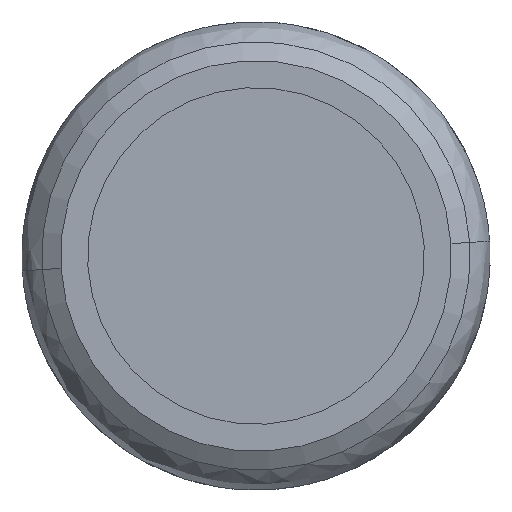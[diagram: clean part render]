
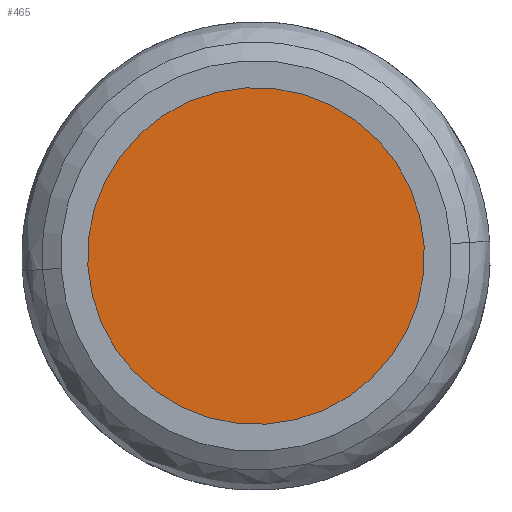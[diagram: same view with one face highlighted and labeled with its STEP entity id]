
A CAD part, left-side view. The second image highlights one B-rep face of the part: STEP entity #465.
In plain terms, the highlighted free-form (B-spline) face has degree [1, 1] with [2, 2] control points.
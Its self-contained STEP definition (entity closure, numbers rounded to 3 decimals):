
#465=ADVANCED_FACE('',(#1185),#1186,.T.);
#973=VERTEX_POINT('',#1696);
#977=VERTEX_POINT('',#1700);
#981=EDGE_CURVE('',#973,#977,#1704,.T.);
#983=EDGE_CURVE('',#977,#973,#1706,.T.);
#1185=FACE_OUTER_BOUND('',#2543,.T.);
#1186=B_SPLINE_SURFACE_WITH_KNOTS('',1,1,((#2544,#2545),(#2546,#2547)),.UNSPECIFIED.,.F.,.F.,.F.,(2,2),(2,2),(0.141,0.859),(0.141,0.859),.UNSPECIFIED.);
#1696=CARTESIAN_POINT('',(-2.,12.65,-0.802));
#1700=CARTESIAN_POINT('',(-2.,-12.65,0.802));
#1704=CIRCLE('',#3570,12.675);
#1706=CIRCLE('',#3573,12.675);
#2543=EDGE_LOOP('',(#3940,#3941));
#2544=CARTESIAN_POINT('',(-2.,-16.895,6.142));
#2545=CARTESIAN_POINT('',(-2.,-6.142,-16.895));
#2546=CARTESIAN_POINT('',(-2.,6.142,16.895));
#2547=CARTESIAN_POINT('',(-2.,16.895,-6.142));
#3570=AXIS2_PLACEMENT_3D('',#4161,#4162,#4163);
#3573=AXIS2_PLACEMENT_3D('',#4164,#4165,#4166);
#3940=ORIENTED_EDGE('',*,*,#981,.T.);
#3941=ORIENTED_EDGE('',*,*,#983,.T.);
#4161=CARTESIAN_POINT('',(-2.,0.,0.));
#4162=DIRECTION('',(-1.0,0.,0.));
#4163=DIRECTION('',(0.,0.998,-0.063));
#4164=CARTESIAN_POINT('',(-2.,0.,0.));
#4165=DIRECTION('',(-1.0,0.,0.));
#4166=DIRECTION('',(0.,-0.998,0.063));
